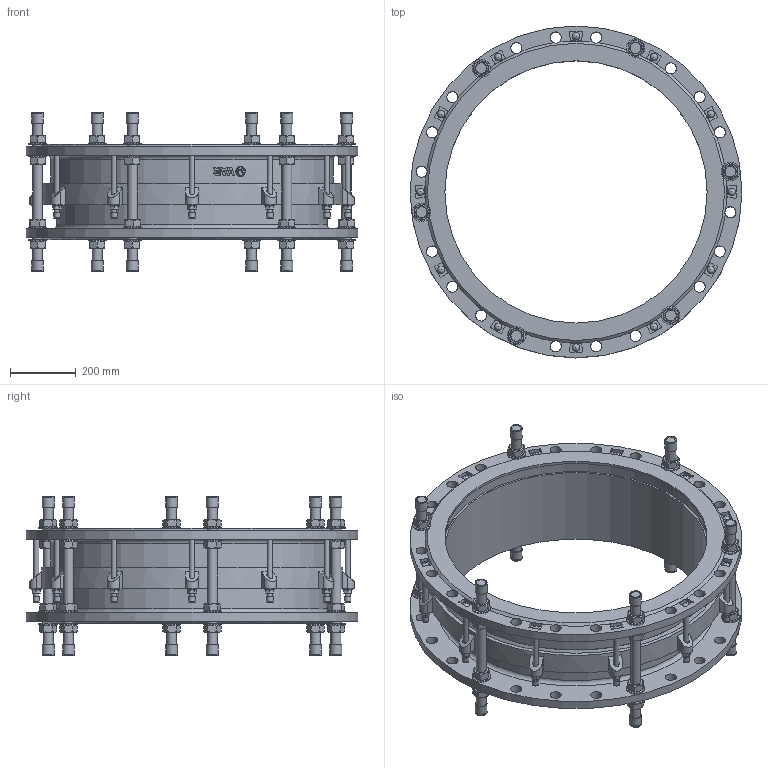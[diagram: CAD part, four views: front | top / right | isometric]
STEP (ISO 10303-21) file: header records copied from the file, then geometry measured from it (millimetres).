
FILE_DESCRIPTION(('STEP AP242'), '1');
FILE_NAME('Ìîíòàæíàÿ âñòàâêà', '', ('UNSPECIFIED'), ('UNSPECIFIED'), 'C3D Converter', 'C3D Toolkit', '');
FILE_SCHEMA(('AP242_MANAGED_MODEL_BASED_3D_ENGINEERING_MIM_LF { 1 0 10303 442 1 1 4 }'));
Length unit declared in the file: millimetre
Products named in the file (13): ШМ.М16.310
Assembly tree (118 placements, depth 2):
  (unnamed)
    (unnamed)
    (unnamed)
    (unnamed)
    (unnamed)  x24
    (unnamed)  x24
    ШМ.М16.310  x6
    (unnamed)  x12
    (unnamed)
    (unnamed)  x12
    (unnamed)  x12
    (unnamed)  x12
    (unnamed)  x12
Bounding box: 1012 x 1012 x 486 mm (x, y, z)
Volume: 36478130.9 mm3; surface area: 5156513.3 mm2
Topology: 118 solids, 118 shells, 1317 faces, 2987 edges, 1897 vertices
Faces by surface type: plane 778, cylinder 316, cone 174, torus 26, sphere 12, extrusion 11
Full cylindrical faces by diameter (mm): 16 x36, 17 x12, 18 x12, 19.2 x12, 30 x54, 30.201 x1, 31 x24, 34 x48, 36 x12, 56 x24, 800 x2, 824 x2, 836 x2, 860 x1, 884 x1, 892 x1, 916 x1, 1012 x2
Entity records: 27670 total; most frequent: CARTESIAN_POINT 13091, DIRECTION 2428, ORIENTED_EDGE 2206, EDGE_CURVE 1103, AXIS2_PLACEMENT_3D 965, VERTEX_POINT 796, EDGE_LOOP 663, FACE_BOUND 509
